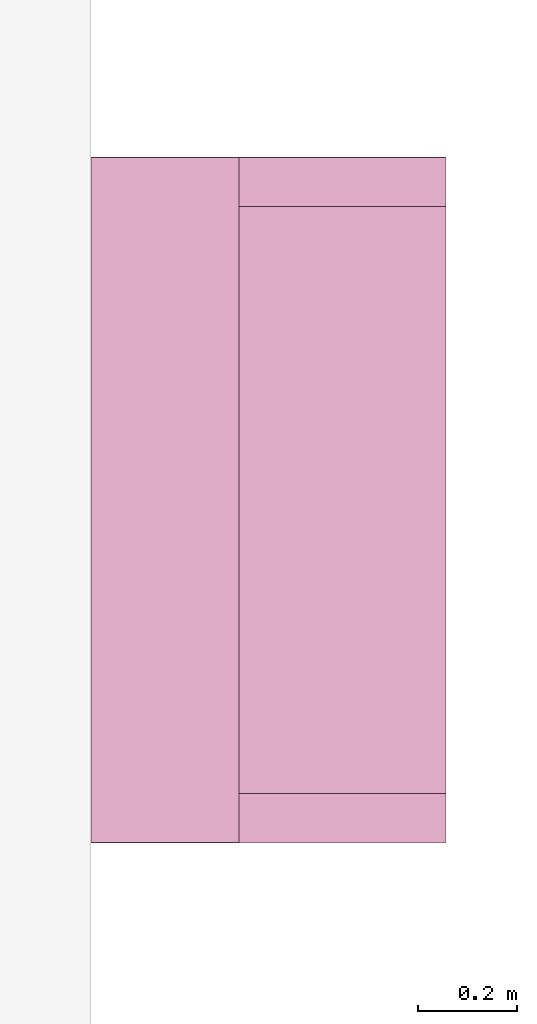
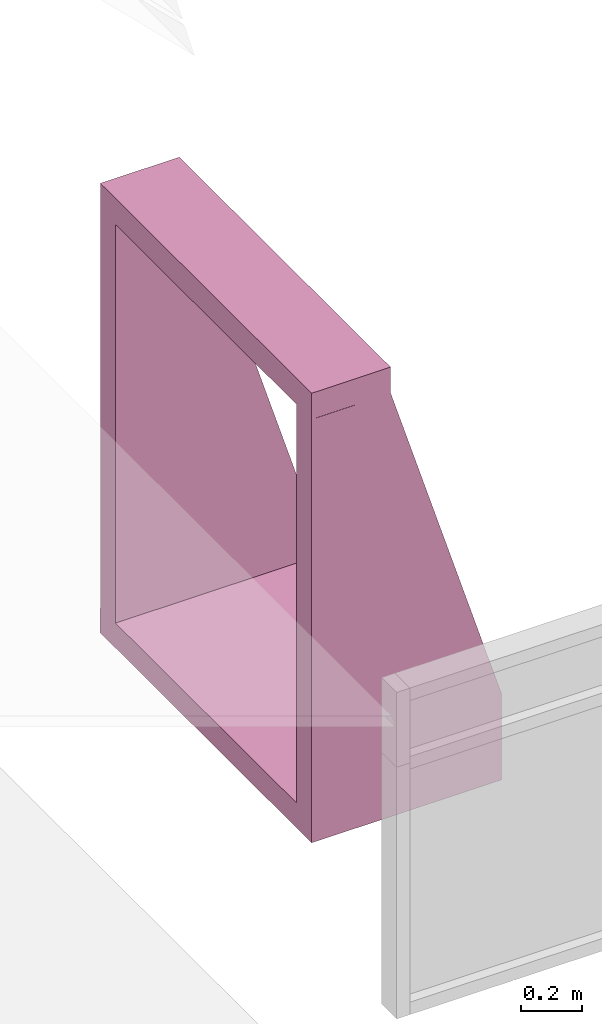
# One storey, part 151 of 153: 1 furniture element.
"""IFC4 building model written with IfcOpenShell, lengths in metres."""

from ifc_helpers import new_model, entity, si_unit, converted_unit, derived_unit, direction, frame, origin, place, context, subcontext, project, spatial, indexed_curve, outline, extrude, source, transform, mapped, material, type_object, type_shapes, element, save


model = new_model("IFC4")

# Units and contexts
model_context = context("Model", 3, precision=1e-05, world=origin(), true_north=direction((6.123031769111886e-17, 1.0)))
body_context = subcontext(model_context, "Body", "Model", "MODEL_VIEW")
ifc_project = project(units=[si_unit("LENGTHUNIT", "METRE"), si_unit("AREAUNIT", "SQUARE_METRE"), si_unit("VOLUMEUNIT", "CUBIC_METRE"), converted_unit("PLANEANGLEUNIT", "DEGREE", entity("IfcRatioMeasure", 0.017453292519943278), si_unit("PLANEANGLEUNIT", "RADIAN"), dimensions=[0, 0, 0, 0, 0, 0, 0]), si_unit("MASSUNIT", "GRAM", prefix="KILO"), derived_unit("MASSDENSITYUNIT", [(si_unit("MASSUNIT", "GRAM", prefix="KILO"), 1), (si_unit("LENGTHUNIT", "METRE"), -3)]), derived_unit("MOMENTOFINERTIAUNIT", [(si_unit("LENGTHUNIT", "METRE"), 4)]), si_unit("TIMEUNIT", "SECOND"), si_unit("FREQUENCYUNIT", "HERTZ"), si_unit("THERMODYNAMICTEMPERATUREUNIT", "DEGREE_CELSIUS"), derived_unit("THERMALTRANSMITTANCEUNIT", [(si_unit("MASSUNIT", "GRAM", prefix="KILO"), 1), (si_unit("THERMODYNAMICTEMPERATUREUNIT", "KELVIN"), -1), (si_unit("TIMEUNIT", "SECOND"), -3)]), derived_unit("VOLUMETRICFLOWRATEUNIT", [(si_unit("LENGTHUNIT", "METRE"), 3), (si_unit("TIMEUNIT", "SECOND"), -1)]), derived_unit("MASSFLOWRATEUNIT", [(si_unit("MASSUNIT", "GRAM", prefix="KILO"), 1), (si_unit("TIMEUNIT", "SECOND"), -1)]), derived_unit("ROTATIONALFREQUENCYUNIT", [(si_unit("TIMEUNIT", "SECOND"), -1)]), si_unit("ELECTRICCURRENTUNIT", "AMPERE"), si_unit("ELECTRICVOLTAGEUNIT", "VOLT"), si_unit("POWERUNIT", "WATT"), si_unit("FORCEUNIT", "NEWTON", prefix="KILO"), si_unit("ILLUMINANCEUNIT", "LUX"), si_unit("LUMINOUSFLUXUNIT", "LUMEN"), si_unit("LUMINOUSINTENSITYUNIT", "CANDELA"), derived_unit("USERDEFINED", [(si_unit("MASSUNIT", "GRAM", prefix="KILO"), -1), (si_unit("LENGTHUNIT", "METRE"), -2), (si_unit("TIMEUNIT", "SECOND"), 3), (si_unit("LUMINOUSFLUXUNIT", "LUMEN"), 1)]), derived_unit("SOUNDPOWERUNIT", [(si_unit("MASSUNIT", "GRAM", prefix="KILO"), 1), (si_unit("LENGTHUNIT", "METRE"), 2), (si_unit("TIMEUNIT", "SECOND"), -3)]), derived_unit("SOUNDPRESSUREUNIT", [(si_unit("MASSUNIT", "GRAM", prefix="KILO"), 1), (si_unit("LENGTHUNIT", "METRE"), -1), (si_unit("TIMEUNIT", "SECOND"), -2)]), derived_unit("LINEARVELOCITYUNIT", [(si_unit("LENGTHUNIT", "METRE"), 1), (si_unit("TIMEUNIT", "SECOND"), -1)]), si_unit("PRESSUREUNIT", "PASCAL"), derived_unit("USERDEFINED", [(si_unit("LENGTHUNIT", "METRE"), -2), (si_unit("MASSUNIT", "GRAM", prefix="KILO"), 1), (si_unit("TIMEUNIT", "SECOND"), -2)]), derived_unit("LINEARFORCEUNIT", [(si_unit("MASSUNIT", "GRAM", prefix="KILO"), 1), (si_unit("LENGTHUNIT", "METRE"), 1), (si_unit("TIMEUNIT", "SECOND"), -2), (si_unit("LENGTHUNIT", "METRE"), -1)]), derived_unit("PLANARFORCEUNIT", [(si_unit("MASSUNIT", "GRAM", prefix="KILO"), 1), (si_unit("LENGTHUNIT", "METRE"), 1), (si_unit("TIMEUNIT", "SECOND"), -2), (si_unit("LENGTHUNIT", "METRE"), -2)])], contexts=[model_context])

# Site, building, storey
site_placement = place(None, origin())
site = spatial("IfcSite", under=ifc_project, at=site_placement, Name="Superficie", CompositionType="ELEMENT")
building_placement = place(site_placement, origin())
building = spatial("IfcBuilding", under=site, at=building_placement, CompositionType="ELEMENT")
storey_placement = place(building_placement, frame((0.0, 0.0, 3.5999999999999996)))
storey = spatial("IfcBuildingStorey", under=building, at=storey_placement, Name="Nivel 1", CompositionType="ELEMENT", Elevation=3.5999999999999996)

# Furniture
ifc_material = material(Name="Madera - Listel", Category="Madera")
furniture_type = type_object("IfcFurnitureType", Name="Aberturas:Aberturas", AssemblyPlace="NOTDEFINED", PredefinedType="NOTDEFINED", material=ifc_material)
shared_shape = source(origin(), body_context, "Body", "SweptSolid", [
    extrude(outline(indexed_curve([(-0.6949814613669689, -0.15000000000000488), (0.6949814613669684, -0.15000000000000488), (0.6949814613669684, 0.15000000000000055), (-0.6949814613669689, 0.15000000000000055), (-0.6949814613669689, -0.15000000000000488)], self_intersect=False)), frame((21.136799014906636, 4.4804403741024, 6.2399999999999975), z_axis=(0.0, 0.0, 1.0), x_axis=(0.0, -1.0, 0.0)), (0.0, 0.0, 1.0), 0.1047000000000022),
    extrude(outline(indexed_curve([(-0.37200000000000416, -0.689999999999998), (0.3480000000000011, -0.689999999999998), (0.3480000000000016, 0.9099999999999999), (0.048000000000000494, 0.9099999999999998), (-0.37200000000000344, -0.4400000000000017), (-0.37200000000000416, -0.689999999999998)], self_intersect=False)), frame((21.334799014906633, 3.785051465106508, 5.3299999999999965), z_axis=(0.0, 1.0, 0.0), x_axis=(-1.0, 0.0, 0.0)), (0.0, 0.0, 1.0), 0.1),
    extrude(outline(indexed_curve([(-0.37200000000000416, -0.6899999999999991), (0.3480000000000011, -0.6899999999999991), (0.3480000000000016, 0.9099999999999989), (0.048000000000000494, 0.9099999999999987), (-0.37200000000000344, -0.4400000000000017), (-0.37200000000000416, -0.6899999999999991)], self_intersect=False)), frame((21.334799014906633, 5.07542183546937, 5.329999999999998), z_axis=(0.0, 1.0, 0.0), x_axis=(-1.0, 0.0, 0.0)), (0.0, 0.0, 1.0), 0.1),
    extrude(outline(indexed_curve([(-0.5951851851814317, -0.3600000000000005), (0.5951851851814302, -0.3600000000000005), (0.6951851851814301, -0.3600000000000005), (0.6951851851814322, 0.3600000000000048), (0.5951851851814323, 0.3600000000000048), (-0.595185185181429, 0.3600000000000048), (-0.6951851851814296, 0.3600000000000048), (-0.6951851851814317, -0.3600000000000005), (-0.5951851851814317, -0.3600000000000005)], self_intersect=False)), frame((21.346799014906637, 4.480644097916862, 4.539999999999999), z_axis=(0.0, 0.0, 1.0), x_axis=(0.0, 1.0, 0.0)), (0.0, 0.0, 1.0), 0.1),
])
type_shapes(furniture_type, [shared_shape])
furniture_placement = place(storey_placement, frame((0.0, 0.0, -3.5999999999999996)))
element("IfcFurniture", 1, at=furniture_placement, inside=storey, type_object=furniture_type, material=ifc_material, Name="Aberturas:Aberturas", ObjectType="Aberturas:Aberturas", PredefinedType="NOTDEFINED", context=body_context, shape_type="MappedRepresentation", body=[
    mapped(shared_shape, transform((0.0, 0.0, 0.0), scale=1.0)),
])

save(model, "model.ifc")
